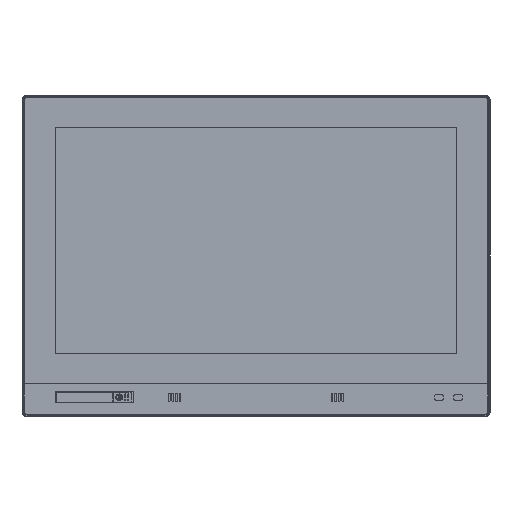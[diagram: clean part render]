
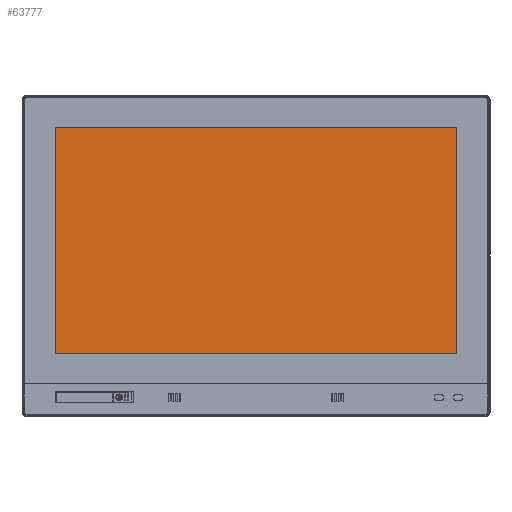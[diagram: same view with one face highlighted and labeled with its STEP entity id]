
A CAD part, top view. The second image highlights one B-rep face of the part: STEP entity #63777.
In plain terms, the highlighted planar face has unit normal (0, 0, 1).
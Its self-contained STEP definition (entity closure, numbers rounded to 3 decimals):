
#11424=DIRECTION('',(-1.,0.,0.));
#11425=VECTOR('',#11424,410.);
#11426=CARTESIAN_POINT('',(205.,116.5,2.));
#11427=LINE('',#11426,#11425);
#11428=DIRECTION('',(0.,1.,0.));
#11429=VECTOR('',#11428,231.);
#11430=CARTESIAN_POINT('',(205.,-114.5,2.));
#11431=LINE('',#11430,#11429);
#11432=DIRECTION('',(1.,0.,0.));
#11433=VECTOR('',#11432,410.);
#11434=CARTESIAN_POINT('',(-205.,-114.5,2.));
#11435=LINE('',#11434,#11433);
#11436=DIRECTION('',(0.,-1.,0.));
#11437=VECTOR('',#11436,231.);
#11438=CARTESIAN_POINT('',(-205.,116.5,2.));
#11439=LINE('',#11438,#11437);
#39350=CARTESIAN_POINT('',(205.,116.5,2.));
#39351=CARTESIAN_POINT('',(-205.,116.5,2.));
#39352=VERTEX_POINT('',#39350);
#39353=VERTEX_POINT('',#39351);
#39354=CARTESIAN_POINT('',(-205.,-114.5,2.));
#39355=VERTEX_POINT('',#39354);
#39356=CARTESIAN_POINT('',(205.,-114.5,2.));
#39357=VERTEX_POINT('',#39356);
#63762=CARTESIAN_POINT('',(-65.8,-54.,2.));
#63763=DIRECTION('',(0.,0.,1.));
#63764=DIRECTION('',(1.,0.,0.));
#63765=AXIS2_PLACEMENT_3D('',#63762,#63763,#63764);
#63766=PLANE('',#63765);
#63768=ORIENTED_EDGE('',*,*,#63767,.F.);
#63770=ORIENTED_EDGE('',*,*,#63769,.F.);
#63772=ORIENTED_EDGE('',*,*,#63771,.F.);
#63774=ORIENTED_EDGE('',*,*,#63773,.F.);
#63775=EDGE_LOOP('',(#63768,#63770,#63772,#63774));
#63776=FACE_OUTER_BOUND('',#63775,.F.);
#63777=ADVANCED_FACE('',(#63776),#63766,.T.);
#63767=EDGE_CURVE('',#39352,#39353,#11427,.T.);
#63769=EDGE_CURVE('',#39357,#39352,#11431,.T.);
#63771=EDGE_CURVE('',#39355,#39357,#11435,.T.);
#63773=EDGE_CURVE('',#39353,#39355,#11439,.T.);
